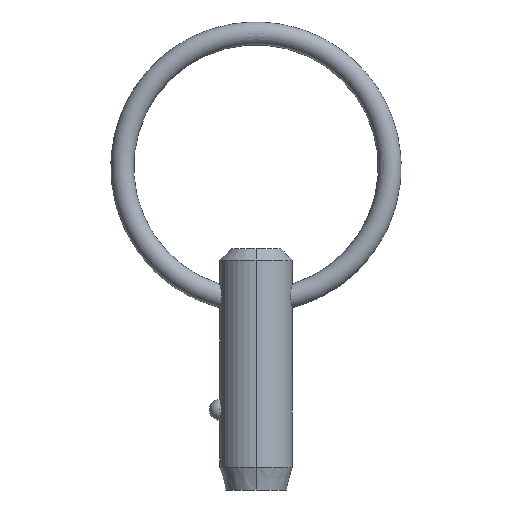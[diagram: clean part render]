
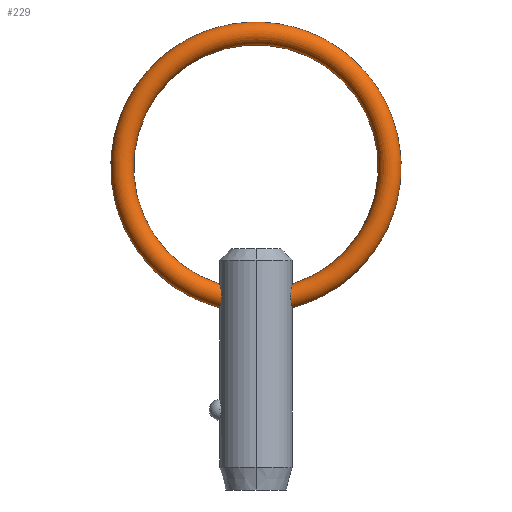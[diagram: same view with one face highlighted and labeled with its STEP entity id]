
A CAD part, left-side view. The second image highlights one B-rep face of the part: STEP entity #229.
In plain terms, the highlighted toroidal (fillet/blend) face has major radius 11.7 mm and minor radius 1 mm.
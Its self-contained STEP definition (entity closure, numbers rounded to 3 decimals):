
#15 = CARTESIAN_POINT ( 'NONE',  ( -1.003, 3.012, 8.913 ) ) ;
#16 = ORIENTED_EDGE ( 'NONE', *, *, #386, .F. ) ;
#17 = B_SPLINE_CURVE_WITH_KNOTS ( 'NONE', 3,
 ( #388, #204, #459, #93, #427, #319, #358, #15, #135, #430, #56, #324, #100, #360, #139, #395 ),
 .UNSPECIFIED., .F., .F.,
 ( 4, 2, 2, 2, 2, 2, 2, 4 ),
 ( 0.004, 0.004, 0.005, 0.005, 0.006, 0.006, 0.007, 0.007 ),
 .UNSPECIFIED. ) ;
#18 = DIRECTION ( 'NONE',  ( 0., 0., -1. ) ) ;
#23 = CARTESIAN_POINT ( 'NONE',  ( -0.516, -3.135, 8.151 ) ) ;
#27 = CARTESIAN_POINT ( 'NONE',  ( -0.815, -3.07, 8.415 ) ) ;
#40 = ORIENTED_EDGE ( 'NONE', *, *, #269, .F. ) ;
#46 = AXIS2_PLACEMENT_3D ( 'NONE', #174, #390, #461 ) ;
#50 = CARTESIAN_POINT ( 'NONE',  ( 0., 3.175, 8.023 ) ) ;
#55 = CARTESIAN_POINT ( 'NONE',  ( 0., 0., 20.32 ) ) ;
#56 = CARTESIAN_POINT ( 'NONE',  ( -0.815, 3.07, 8.415 ) ) ;
#61 = CARTESIAN_POINT ( 'NONE',  ( -0.067, -3.175, 10.102 ) ) ;
#65 = CARTESIAN_POINT ( 'NONE',  ( -0.888, -3.049, 8.529 ) ) ;
#67 = CARTESIAN_POINT ( 'NONE',  ( -1.004, -3.012, 8.915 ) ) ;
#72 = CIRCLE ( 'NONE', #46, 10.7 ) ;
#93 = CARTESIAN_POINT ( 'NONE',  ( -0.51, 3.136, 9.954 ) ) ;
#100 = CARTESIAN_POINT ( 'NONE',  ( -0.514, 3.136, 8.149 ) ) ;
#109 = CARTESIAN_POINT ( 'NONE',  ( -0.508, -3.136, 9.955 ) ) ;
#119 = ORIENTED_EDGE ( 'NONE', *, *, #127, .F. ) ;
#127 = EDGE_CURVE ( 'NONE', #193, #428, #163, .T. ) ;
#135 = CARTESIAN_POINT ( 'NONE',  ( -0.982, 3.02, 8.778 ) ) ;
#139 = CARTESIAN_POINT ( 'NONE',  ( -0.133, 3.175, 8.023 ) ) ;
#148 = TOROIDAL_SURFACE ( 'NONE', #195, 11.7, 1. ) ;
#153 = EDGE_LOOP ( 'NONE', ( #119, #16, #469, #40 ) ) ;
#163 = CIRCLE ( 'NONE', #170, 12.7 ) ;
#170 = AXIS2_PLACEMENT_3D ( 'NONE', #307, #449, #482 ) ;
#174 = CARTESIAN_POINT ( 'NONE',  ( 0., 0., 20.32 ) ) ;
#181 = CARTESIAN_POINT ( 'NONE',  ( -0.882, -3.055, 9.58 ) ) ;
#193 = VERTEX_POINT ( 'NONE', #50 ) ;
#195 = AXIS2_PLACEMENT_3D ( 'NONE', #55, #248, #18 ) ;
#204 = CARTESIAN_POINT ( 'NONE',  ( -0.134, 3.175, 10.102 ) ) ;
#218 = CARTESIAN_POINT ( 'NONE',  ( -0.629, -3.114, 8.225 ) ) ;
#229 = ADVANCED_FACE ( 'NONE', ( #485 ), #148, .T. ) ;
#248 = DIRECTION ( 'NONE',  ( 1., 0., 0. ) ) ;
#256 = CARTESIAN_POINT ( 'NONE',  ( -0.264, -3.165, 10.064 ) ) ;
#258 = CARTESIAN_POINT ( 'NONE',  ( -0.134, -3.175, 8.023 ) ) ;
#262 = CARTESIAN_POINT ( 'NONE',  ( 0., 3.175, 10.102 ) ) ;
#265 = CARTESIAN_POINT ( 'NONE',  ( 0., -3.175, 10.102 ) ) ;
#269 = EDGE_CURVE ( 'NONE', #428, #276, #321, .T. ) ;
#276 = VERTEX_POINT ( 'NONE', #265 ) ;
#287 = CARTESIAN_POINT ( 'NONE',  ( 0., -3.175, 8.023 ) ) ;
#293 = CARTESIAN_POINT ( 'NONE',  ( -0.983, -3.02, 8.779 ) ) ;
#307 = CARTESIAN_POINT ( 'NONE',  ( 0., 0., 20.32 ) ) ;
#319 = CARTESIAN_POINT ( 'NONE',  ( -0.884, 3.055, 9.577 ) ) ;
#321 = B_SPLINE_CURVE_WITH_KNOTS ( 'NONE', 3,
 ( #397, #258, #400, #23, #218, #27, #65, #293, #67, #364, #181, #328, #109, #465, #256, #399, #61, #435 ),
 .UNSPECIFIED., .F., .F.,
 ( 4, 2, 2, 2, 2, 2, 2, 2, 4 ),
 ( 0.006, 0.006, 0.007, 0.007, 0.008, 0.008, 0.009, 0.009, 0.009 ),
 .UNSPECIFIED. ) ;
#324 = CARTESIAN_POINT ( 'NONE',  ( -0.628, 3.114, 8.224 ) ) ;
#328 = CARTESIAN_POINT ( 'NONE',  ( -0.615, -3.116, 9.873 ) ) ;
#358 = CARTESIAN_POINT ( 'NONE',  ( -0.992, 3.016, 9.313 ) ) ;
#360 = CARTESIAN_POINT ( 'NONE',  ( -0.268, 3.166, 8.049 ) ) ;
#364 = CARTESIAN_POINT ( 'NONE',  ( -0.991, -3.016, 9.316 ) ) ;
#378 = EDGE_CURVE ( 'NONE', #475, #276, #72, .T. ) ;
#386 = EDGE_CURVE ( 'NONE', #475, #193, #17, .T. ) ;
#388 = CARTESIAN_POINT ( 'NONE',  ( 0., 3.175, 10.102 ) ) ;
#390 = DIRECTION ( 'NONE',  ( 1., 0., 0. ) ) ;
#395 = CARTESIAN_POINT ( 'NONE',  ( 0., 3.175, 8.023 ) ) ;
#397 = CARTESIAN_POINT ( 'NONE',  ( 0., -3.175, 8.023 ) ) ;
#399 = CARTESIAN_POINT ( 'NONE',  ( -0.133, -3.173, 10.094 ) ) ;
#400 = CARTESIAN_POINT ( 'NONE',  ( -0.269, -3.166, 8.049 ) ) ;
#427 = CARTESIAN_POINT ( 'NONE',  ( -0.617, 3.116, 9.871 ) ) ;
#428 = VERTEX_POINT ( 'NONE', #287 ) ;
#430 = CARTESIAN_POINT ( 'NONE',  ( -0.888, 3.049, 8.528 ) ) ;
#435 = CARTESIAN_POINT ( 'NONE',  ( 0., -3.175, 10.102 ) ) ;
#449 = DIRECTION ( 'NONE',  ( 1., 0., 0. ) ) ;
#459 = CARTESIAN_POINT ( 'NONE',  ( -0.269, 3.166, 10.07 ) ) ;
#461 = DIRECTION ( 'NONE',  ( 0., 0., -1. ) ) ;
#465 = CARTESIAN_POINT ( 'NONE',  ( -0.328, -3.159, 10.041 ) ) ;
#469 = ORIENTED_EDGE ( 'NONE', *, *, #378, .T. ) ;
#475 = VERTEX_POINT ( 'NONE', #262 ) ;
#482 = DIRECTION ( 'NONE',  ( 0., 0., -1. ) ) ;
#485 = FACE_OUTER_BOUND ( 'NONE', #153, .T. ) ;
